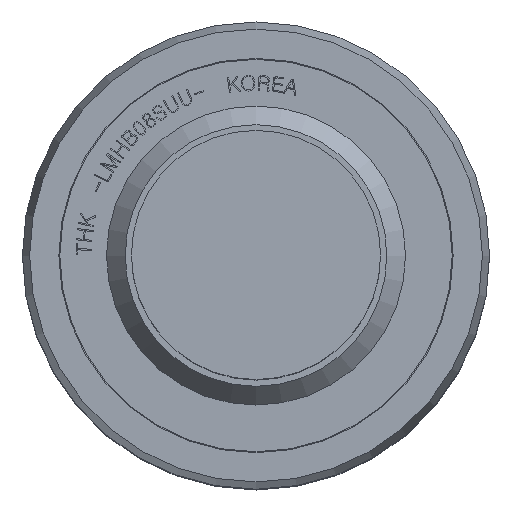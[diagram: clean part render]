
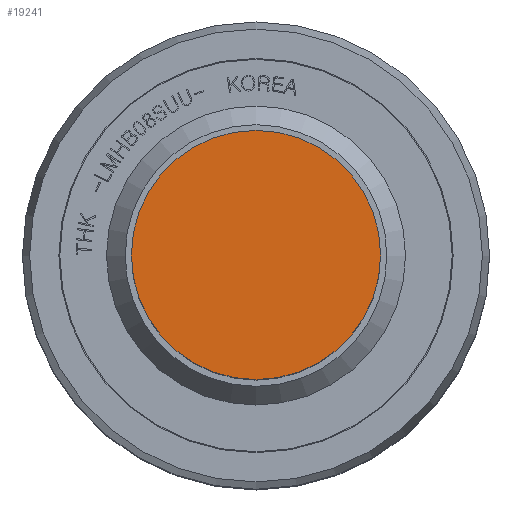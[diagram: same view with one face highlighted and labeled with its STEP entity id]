
A CAD part, top view. The second image highlights one B-rep face of the part: STEP entity #19241.
In plain terms, the highlighted planar face has unit normal (0, 0, 1).
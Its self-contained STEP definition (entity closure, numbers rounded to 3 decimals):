
#724=PLANE('',#20372);
#2446=FACE_OUTER_BOUND('',#3505,.T.);
#3505=EDGE_LOOP('',(#12578));
#7427=CIRCLE('',#20366,4.);
#7677=VERTEX_POINT('',#23884);
#9625=EDGE_CURVE('',#7677,#7677,#7427,.T.);
#12578=ORIENTED_EDGE('',*,*,#9625,.T.);
#19241=ADVANCED_FACE('',(#2446),#724,.T.);
#20366=AXIS2_PLACEMENT_3D('',#23885,#21147,#21148);
#20372=AXIS2_PLACEMENT_3D('',#23896,#21161,#21162);
#21147=DIRECTION('center_axis',(0.,0.,
1.));
#21148=DIRECTION('ref_axis',(-1.,0.,0.));
#21161=DIRECTION('center_axis',(0.,0.,
1.));
#21162=DIRECTION('ref_axis',(1.,0.,0.));
#23884=CARTESIAN_POINT('',(4.,0.,18.5));
#23885=CARTESIAN_POINT('Origin',(0.,0.,
18.5));
#23896=CARTESIAN_POINT('Origin',(0.,0.,
18.5));
